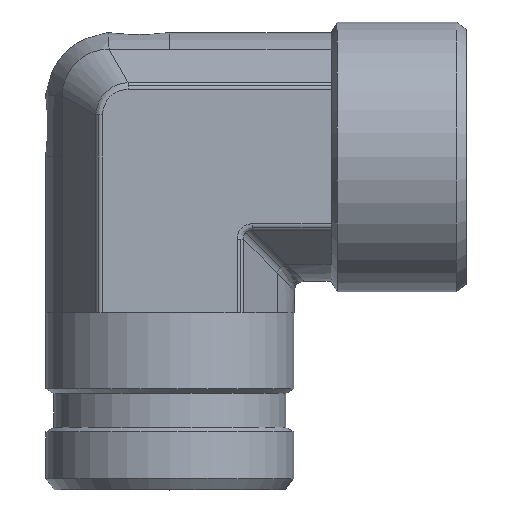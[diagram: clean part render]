
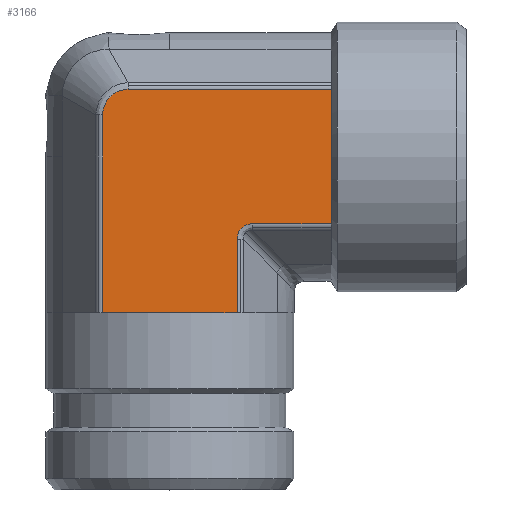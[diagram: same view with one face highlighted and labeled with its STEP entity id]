
A CAD part, top view. The second image highlights one B-rep face of the part: STEP entity #3166.
In plain terms, the highlighted planar face has unit normal (0, 0, 1) as drawn and (0, -1, 0) by its records, which use the part's own axes.
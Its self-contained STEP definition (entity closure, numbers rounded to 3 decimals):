
#361=CARTESIAN_POINT('',(11.449,-23.875,12.918));
#362=VERTEX_POINT('',#361);
#370=CARTESIAN_POINT('',(25.5,-23.875,12.918));
#371=VERTEX_POINT('',#370);
#372=CARTESIAN_POINT('',(11.449,-23.875,12.918));
#373=DIRECTION('',(1.0,0.0,0.0));
#374=VECTOR('',#373,14.051);
#375=LINE('',#372,#374);
#376=EDGE_CURVE('',#362,#371,#375,.T.);
#485=CARTESIAN_POINT('',(-17.418,-23.875,-8.029));
#486=VERTEX_POINT('',#485);
#494=CARTESIAN_POINT('',(-17.418,-23.875,31.0));
#495=VERTEX_POINT('',#494);
#496=CARTESIAN_POINT('',(-17.418,-23.875,-8.029));
#497=DIRECTION('',(0.0,0.0,1.0));
#498=VECTOR('',#497,39.029);
#499=LINE('',#496,#498);
#500=EDGE_CURVE('',#486,#495,#499,.T.);
#2017=CARTESIAN_POINT('',(-4.5,-23.875,31.0));
#2018=VERTEX_POINT('',#2017);
#2083=CARTESIAN_POINT('',(-4.5,-23.875,31.0));
#2084=DIRECTION('',(-1.0,0.0,0.0));
#2085=VECTOR('',#2084,12.918);
#2086=LINE('',#2083,#2085);
#2087=EDGE_CURVE('',#2018,#495,#2086,.T.);
#2152=CARTESIAN_POINT('',(8.418,-23.875,31.0));
#2153=VERTEX_POINT('',#2152);
#2154=CARTESIAN_POINT('',(8.418,-23.875,31.0));
#2155=DIRECTION('',(-1.0,0.0,0.0));
#2156=VECTOR('',#2155,12.918);
#2157=LINE('',#2154,#2156);
#2158=EDGE_CURVE('',#2153,#2018,#2157,.T.);
#2780=CARTESIAN_POINT('',(-12.529,-23.875,-12.918));
#2781=VERTEX_POINT('',#2780);
#2789=CARTESIAN_POINT('',(-17.418,-23.875,-8.029));
#2790=CARTESIAN_POINT('',(-17.418,-23.875,-8.347));
#2791=CARTESIAN_POINT('',(-17.386,-23.875,-8.668));
#2792=CARTESIAN_POINT('',(-17.221,-23.875,-9.486));
#2793=CARTESIAN_POINT('',(-17.041,-23.875,-9.969));
#2794=CARTESIAN_POINT('',(-16.385,-23.875,-11.131));
#2795=CARTESIAN_POINT('',(-15.803,-23.875,-11.74));
#2796=CARTESIAN_POINT('',(-14.333,-23.875,-12.659));
#2797=CARTESIAN_POINT('',(-13.432,-23.875,-12.918));
#2798=CARTESIAN_POINT('',(-12.529,-23.875,-12.918));
#2799=B_SPLINE_CURVE_WITH_KNOTS('',3,(#2789,#2790,#2791,#2792,#2793,#2794,#2795,#2796,#2797,#2798),.UNSPECIFIED.,.F.,.U.,(4,2,2,2,4),(-7.634,-6.68,-5.153,-2.71,0.0),.UNSPECIFIED.);
#2800=EDGE_CURVE('',#2781,#486,#2799,.F.);
#2826=CARTESIAN_POINT('',(25.5,-23.875,-12.918));
#2827=VERTEX_POINT('',#2826);
#2835=CARTESIAN_POINT('',(25.5,-23.875,-12.918));
#2836=DIRECTION('',(-1.0,0.0,0.0));
#2837=VECTOR('',#2836,38.029);
#2838=LINE('',#2835,#2837);
#2839=EDGE_CURVE('',#2827,#2781,#2838,.T.);
#2971=CARTESIAN_POINT('',(8.418,-23.875,15.949));
#2972=VERTEX_POINT('',#2971);
#2973=CARTESIAN_POINT('',(8.418,-23.875,31.0));
#2974=DIRECTION('',(0.0,0.0,-1.0));
#2975=VECTOR('',#2974,15.051);
#2976=LINE('',#2973,#2975);
#2977=EDGE_CURVE('',#2153,#2972,#2976,.T.);
#3110=CARTESIAN_POINT('',(12.46,-23.875,16.96));
#3111=DIRECTION('',(0.,-1.0,0.));
#3112=DIRECTION('',(-0.707,0.,-0.707));
#3113=AXIS2_PLACEMENT_3D('',#3110,#3111,#3112);
#3114=ELLIPSE('',#3113,4.518,3.5);
#3115=EDGE_CURVE('',#2972,#362,#3114,.T.);
#3145=CARTESIAN_POINT('',(-4.5,-23.875,-3.175));
#3146=DIRECTION('',(0.0,-1.0,0.0));
#3147=DIRECTION('',(0.0,0.0,-1.0));
#3148=AXIS2_PLACEMENT_3D('',#3145,#3146,#3147);
#3149=PLANE('',#3148);
#3150=ORIENTED_EDGE('',*,*,#2839,.F.);
#3151=CARTESIAN_POINT('',(25.5,-23.875,-12.918));
#3152=DIRECTION('',(0.0,0.0,1.0));
#3153=VECTOR('',#3152,25.836);
#3154=LINE('',#3151,#3153);
#3155=EDGE_CURVE('',#2827,#371,#3154,.T.);
#3156=ORIENTED_EDGE('',*,*,#3155,.T.);
#3157=ORIENTED_EDGE('',*,*,#376,.F.);
#3158=ORIENTED_EDGE('',*,*,#3115,.F.);
#3159=ORIENTED_EDGE('',*,*,#2977,.F.);
#3160=ORIENTED_EDGE('',*,*,#2158,.T.);
#3161=ORIENTED_EDGE('',*,*,#2087,.T.);
#3162=ORIENTED_EDGE('',*,*,#500,.F.);
#3163=ORIENTED_EDGE('',*,*,#2800,.F.);
#3164=EDGE_LOOP('',(#3150,#3156,#3157,#3158,#3159,#3160,#3161,#3162,#3163));
#3165=FACE_OUTER_BOUND('',#3164,.T.);
#3166=ADVANCED_FACE('',(#3165),#3149,.T.);
